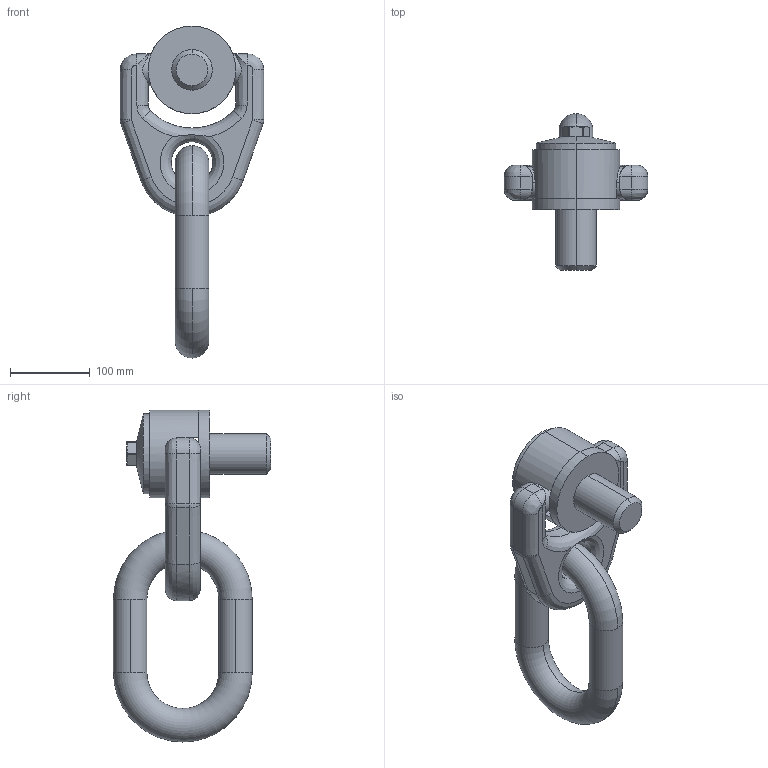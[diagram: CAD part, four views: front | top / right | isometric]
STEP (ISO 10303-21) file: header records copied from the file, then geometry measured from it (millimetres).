
FILE_DESCRIPTION (( 'STEP AP203' ), '1' );
FILE_NAME ('63150.W0400.step', '2013-12-13T11:56:36', ( 'User' ), ( '' ), 'SwSTEP 2.0', 'SolidWorks 2009', '' );
FILE_SCHEMA (( 'CONFIG_CONTROL_DESIGN' ));
Length unit declared in the file: millimetre
Products named in the file (4): 63150.W0400; Part1_63150.W0400; Part2E; Part3_63150.W0400
Assembly tree (3 placements, depth 2):
  63150.W0400
    Part3_63150.W0400
    Part2E
    Part1_63150.W0400
Bounding box: 180 x 197 x 416 mm (x, y, z)
Volume: 2467288.4 mm3; surface area: 228205.4 mm2
Topology: 3 solids, 3 shells, 127 faces, 310 edges, 182 vertices
Faces by surface type: plane 42, cylinder 37, bspline 30, cone 10, torus 4, sphere 4
Entity records: 7568 total; most frequent: CARTESIAN_POINT 4415, ORIENTED_EDGE 612, DIRECTION 538, EDGE_CURVE 306, AXIS2_PLACEMENT_3D 221, VERTEX_POINT 182, EDGE_LOOP 130, ADVANCED_FACE 127
